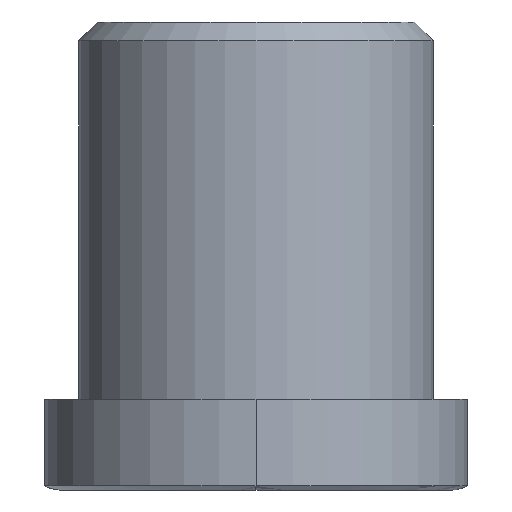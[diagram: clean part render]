
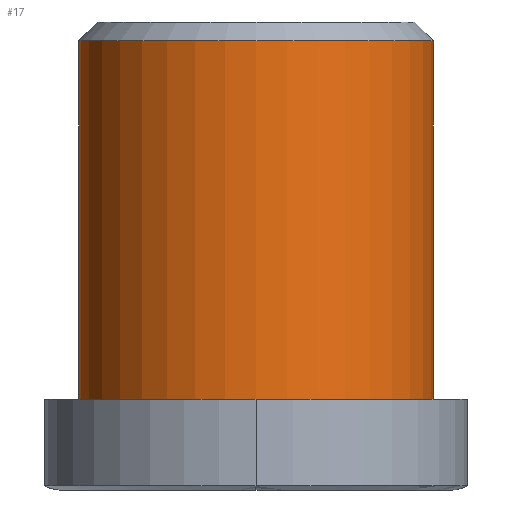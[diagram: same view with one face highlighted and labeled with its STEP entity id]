
A CAD part, left-side view. The second image highlights one B-rep face of the part: STEP entity #17.
In plain terms, the highlighted cylindrical face has radius 11.75 mm (diameter 23.5 mm), a partial arc.
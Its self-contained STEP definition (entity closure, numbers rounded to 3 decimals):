
#4 = EDGE_CURVE ( 'NONE', #1400, #108, #689, .T. ) ;
#17 = ADVANCED_FACE ( 'NONE', ( #84 ), #759, .T. ) ;
#27 = DIRECTION ( 'NONE',  ( 0., 0., 1. ) ) ;
#59 = CARTESIAN_POINT ( 'NONE',  ( 0., 11.75, 5.25 ) ) ;
#84 = FACE_OUTER_BOUND ( 'NONE', #1050, .T. ) ;
#98 = EDGE_CURVE ( 'NONE', #1400, #413, #1365, .T. ) ;
#108 = VERTEX_POINT ( 'NONE', #1338 ) ;
#167 = DIRECTION ( 'NONE',  ( 0., -1., 0. ) ) ;
#226 = DIRECTION ( 'NONE',  ( 0., 0., -1. ) ) ;
#312 = AXIS2_PLACEMENT_3D ( 'NONE', #442, #226, #862 ) ;
#336 = VERTEX_POINT ( 'NONE', #1382 ) ;
#413 = VERTEX_POINT ( 'NONE', #1657 ) ;
#439 = DIRECTION ( 'NONE',  ( 0., 0., 1. ) ) ;
#442 = CARTESIAN_POINT ( 'NONE',  ( 0., 0., 29. ) ) ;
#581 = LINE ( 'NONE', #975, #696 ) ;
#672 = DIRECTION ( 'NONE',  ( 0., 0., 1. ) ) ;
#689 = CIRCLE ( 'NONE', #1077, 11.75 ) ;
#696 = VECTOR ( 'NONE', #1617, 1000. ) ;
#748 = CIRCLE ( 'NONE', #312, 11.75 ) ;
#752 = ORIENTED_EDGE ( 'NONE', *, *, #1408, .T. ) ;
#759 = CYLINDRICAL_SURFACE ( 'NONE', #1600, 11.75 ) ;
#778 = ORIENTED_EDGE ( 'NONE', *, *, #1488, .T. ) ;
#794 = DIRECTION ( 'NONE',  ( 0., -1., 0. ) ) ;
#832 = VECTOR ( 'NONE', #439, 1000. ) ;
#862 = DIRECTION ( 'NONE',  ( 0., 1., 0. ) ) ;
#975 = CARTESIAN_POINT ( 'NONE',  ( 0., -11.75, 30.25 ) ) ;
#1050 = EDGE_LOOP ( 'NONE', ( #1197, #1297, #778, #752 ) ) ;
#1064 = CARTESIAN_POINT ( 'NONE',  ( 0., 0., 5.25 ) ) ;
#1077 = AXIS2_PLACEMENT_3D ( 'NONE', #1064, #672, #167 ) ;
#1079 = CARTESIAN_POINT ( 'NONE',  ( 0., 11.75, 30.25 ) ) ;
#1197 = ORIENTED_EDGE ( 'NONE', *, *, #98, .F. ) ;
#1297 = ORIENTED_EDGE ( 'NONE', *, *, #4, .T. ) ;
#1338 = CARTESIAN_POINT ( 'NONE',  ( 0., -11.75, 5.25 ) ) ;
#1365 = LINE ( 'NONE', #1079, #832 ) ;
#1382 = CARTESIAN_POINT ( 'NONE',  ( 0., -11.75, 29. ) ) ;
#1400 = VERTEX_POINT ( 'NONE', #59 ) ;
#1408 = EDGE_CURVE ( 'NONE', #336, #413, #748, .T. ) ;
#1488 = EDGE_CURVE ( 'NONE', #108, #336, #581, .T. ) ;
#1574 = CARTESIAN_POINT ( 'NONE',  ( 0., 0., 30.25 ) ) ;
#1600 = AXIS2_PLACEMENT_3D ( 'NONE', #1574, #27, #794 ) ;
#1617 = DIRECTION ( 'NONE',  ( 0., 0., 1. ) ) ;
#1657 = CARTESIAN_POINT ( 'NONE',  ( 0., 11.75, 29. ) ) ;
